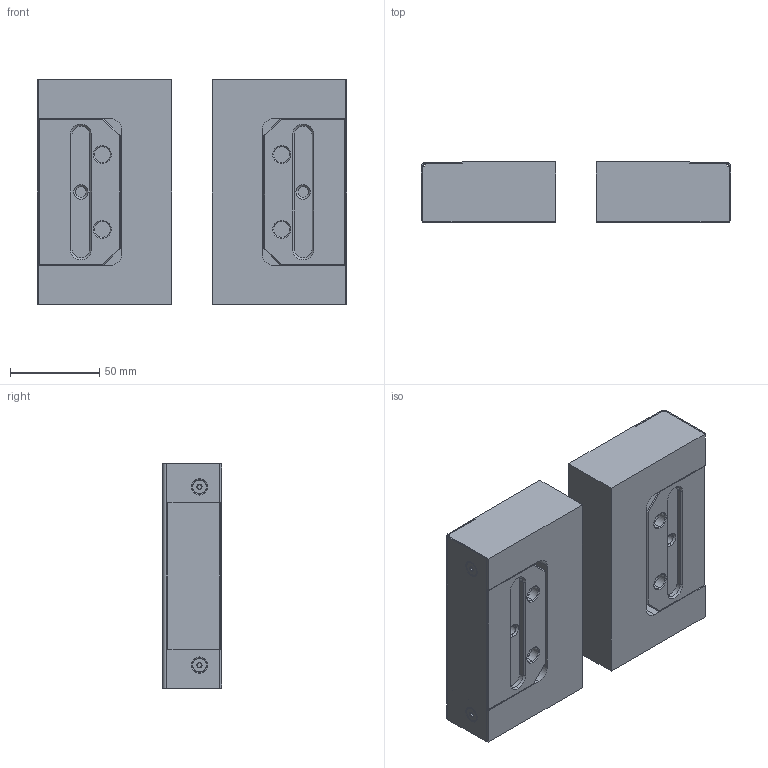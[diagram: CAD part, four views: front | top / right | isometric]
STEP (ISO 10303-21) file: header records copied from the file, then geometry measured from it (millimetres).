
FILE_DESCRIPTION (( 'STEP AP214' ), '1' );
FILE_NAME ('AL52XA.STEP', '2020-06-15T21:59:48', ( '' ), ( '' ), 'SwSTEP 2.0', 'SolidWorks 2018', '' );
FILE_SCHEMA (( 'AUTOMOTIVE_DESIGN' ));
Length unit declared in the file: inch
Products named in the file (5): M4X8.FHS_92125A188; D_AL5X-1; AL5-3; AL52XA; AL5-2A
Assembly tree (14 placements, depth 2):
  AL52XA
    D_AL5X-1  x2
    AL5-2A  x2
    AL5-3  x2
    M4X8.FHS_92125A188  x8
Bounding box: 173.68 x 33.66 x 125.73 mm (x, y, z)
Volume: 607644.9 mm3; surface area: 125321.6 mm2
Topology: 14 solids, 14 shells, 826 faces, 2074 edges, 1284 vertices
Faces by surface type: cylinder 328, cone 226, plane 220, torus 32, bspline 20
Entity records: 8531 total; most frequent: CARTESIAN_POINT 2553, DIRECTION 1174, ORIENTED_EDGE 1158, EDGE_CURVE 579, AXIS2_PLACEMENT_3D 436, VERTEX_POINT 357, VECTOR 302, LINE 302
